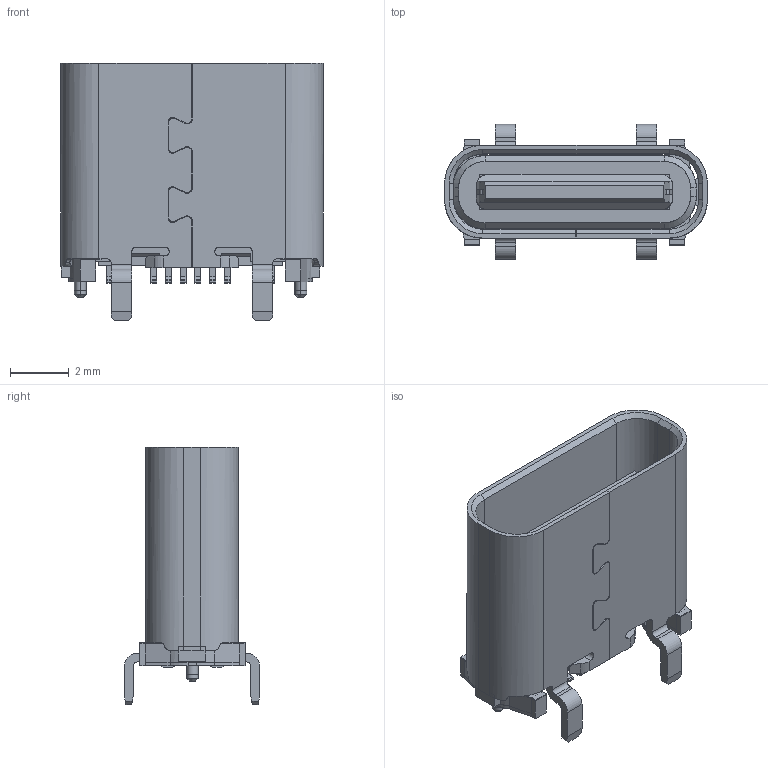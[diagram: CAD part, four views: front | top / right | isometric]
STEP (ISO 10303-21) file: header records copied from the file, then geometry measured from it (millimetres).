
FILE_DESCRIPTION((''),'2;1');
FILE_NAME('_TC_16P_6_5_0_95_ASM_ASM','2023-01-03T',('888'),(''),'PRO/ENGINEER BY PARAMETRIC TECHNOLOGY CORPORATION, 2010480','PRO/ENGINEER BY PARAMETRIC TECHNOLOGY CORPORATION, 2010480','');
FILE_SCHEMA(('CONFIG_CONTROL_DESIGN'));
Length unit declared in the file: millimetre
Products named in the file (33): PRT0060; ASM0031_ASM_ASM; ASM0030_ASM_ASM; PRT0061; ASM0032_ASM_ASM; ASM0029_ASM_ASM; PRT0062; PRT0063; PRT0064; PRT0065; PRT0066; PRT0067; PRT0068; PRT0069; ASM0034_ASM_ASM; PRT0070; ASM0033_ASM_ASM; PRT0023; PRT0024; PRT0025; PRT0026; PRT0027; PRT0028; PRT0029; PRT0030; TC_16P_6_5H_________________ASM_ASM; PRT0071; ASM0035_ASM_ASM; ASM0028_ASM_ASM; ASM0027_ASM_ASM; ASM0026_ASM_ASM; WAIKE1; _TC_16P_6_5_0_95_ASM_ASM
Assembly tree (32 placements, depth 8):
  _TC_16P_6_5_0_95_ASM_ASM
    ASM0026_ASM_ASM
      ASM0027_ASM_ASM
        ASM0028_ASM_ASM
          ASM0029_ASM_ASM
            ASM0030_ASM_ASM
              ASM0031_ASM_ASM
                PRT0060
            ASM0032_ASM_ASM
              PRT0061
          ASM0033_ASM_ASM
            ASM0034_ASM_ASM
              PRT0062
              PRT0063
              PRT0064
              PRT0065
              PRT0066
              PRT0067
              PRT0068
              PRT0069
            PRT0070
          ASM0035_ASM_ASM
            TC_16P_6_5H_________________ASM_ASM
              PRT0023
              PRT0024
              PRT0025
              PRT0026
              PRT0027
              PRT0028
              PRT0029
              PRT0030
            PRT0071
    WAIKE1
Bounding box: 8.94 x 4.6 x 8.75 mm (x, y, z)
Volume: 43.9 mm3; surface area: 754.4 mm2
Topology: 1 solids, 1482 shells, 1697 faces, 9239 edges, 9025 vertices
Faces by surface type: plane 1278, cylinder 383, cone 32, bspline 4
Entity records: 93820 total; most frequent: CARTESIAN_POINT 24190, DIRECTION 12948, ORIENTED_EDGE 9856, EDGE_CURVE 9239, VERTEX_POINT 9025, VECTOR 7746, LINE 7746, AXIS2_PLACEMENT_3D 2601
